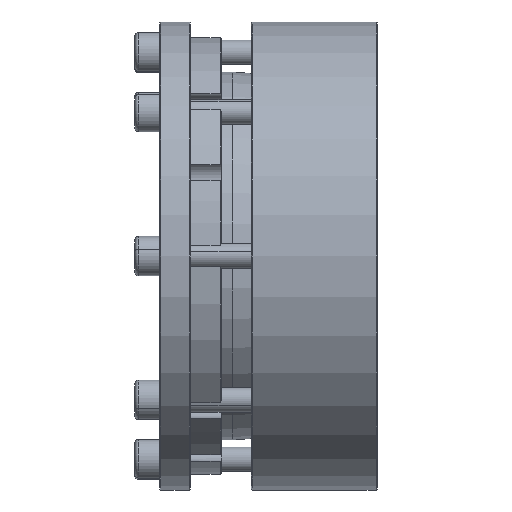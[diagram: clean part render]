
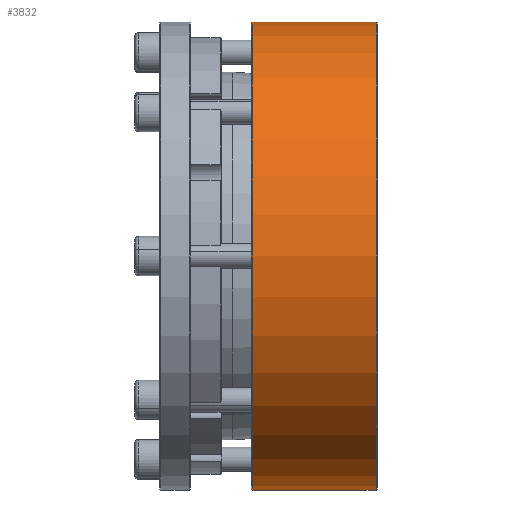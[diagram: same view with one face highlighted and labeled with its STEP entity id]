
A CAD part, front view. The second image highlights one B-rep face of the part: STEP entity #3832.
In plain terms, the highlighted cylindrical face has radius 94.91 mm (diameter 189.82 mm), a partial arc.
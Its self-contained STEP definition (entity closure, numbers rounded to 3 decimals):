
#24 = CARTESIAN_POINT ( 'NONE',  ( -68.181, 26.04, 94.91 ) ) ;
#140 = AXIS2_PLACEMENT_3D ( 'NONE', #1711, #7635, #3915 ) ;
#164 = CARTESIAN_POINT ( 'NONE',  ( -17.981, 26.04, -94.91 ) ) ;
#169 = EDGE_CURVE ( 'NONE', #2679, #8465, #5921, .T. ) ;
#216 = CYLINDRICAL_SURFACE ( 'NONE', #8225, 94.91 ) ;
#326 = VERTEX_POINT ( 'NONE', #164 ) ;
#1711 = CARTESIAN_POINT ( 'NONE',  ( -17.981, 26.04, 0. ) ) ;
#1787 = DIRECTION ( 'NONE',  ( -1., 0., 0. ) ) ;
#2069 = DIRECTION ( 'NONE',  ( -1., 0., 0. ) ) ;
#2420 = FACE_OUTER_BOUND ( 'NONE', #5132, .T. ) ;
#2483 = CARTESIAN_POINT ( 'NONE',  ( -68.581, 26.04, 0. ) ) ;
#2654 = EDGE_CURVE ( 'NONE', #8465, #2732, #6227, .T. ) ;
#2679 = VERTEX_POINT ( 'NONE', #7169 ) ;
#2732 = VERTEX_POINT ( 'NONE', #6105 ) ;
#2927 = ORIENTED_EDGE ( 'NONE', *, *, #6301, .F. ) ;
#2959 = CARTESIAN_POINT ( 'NONE',  ( -68.581, 26.04, 94.91 ) ) ;
#3191 = ORIENTED_EDGE ( 'NONE', *, *, #169, .T. ) ;
#3511 = DIRECTION ( 'NONE',  ( -1., 0., 0. ) ) ;
#3832 = ADVANCED_FACE ( 'NONE', ( #2420 ), #216, .T. ) ;
#3915 = DIRECTION ( 'NONE',  ( 0., 0., 1. ) ) ;
#4244 = CARTESIAN_POINT ( 'NONE',  ( -68.581, 26.04, -94.91 ) ) ;
#4433 = VECTOR ( 'NONE', #3511, 1000. ) ;
#4792 = CARTESIAN_POINT ( 'NONE',  ( -68.181, 26.04, 0. ) ) ;
#5132 = EDGE_LOOP ( 'NONE', ( #2927, #6084, #3191, #6747 ) ) ;
#5212 = DIRECTION ( 'NONE',  ( 0., 0., 1. ) ) ;
#5646 = EDGE_CURVE ( 'NONE', #326, #2679, #5736, .T. ) ;
#5683 = LINE ( 'NONE', #4244, #4433 ) ;
#5734 = AXIS2_PLACEMENT_3D ( 'NONE', #4792, #6232, #6803 ) ;
#5736 = CIRCLE ( 'NONE', #140, 94.91 ) ;
#5921 = LINE ( 'NONE', #2959, #9662 ) ;
#6084 = ORIENTED_EDGE ( 'NONE', *, *, #5646, .T. ) ;
#6105 = CARTESIAN_POINT ( 'NONE',  ( -68.181, 26.04, -94.91 ) ) ;
#6227 = CIRCLE ( 'NONE', #5734, 94.91 ) ;
#6232 = DIRECTION ( 'NONE',  ( 1., 0., 0. ) ) ;
#6301 = EDGE_CURVE ( 'NONE', #326, #2732, #5683, .T. ) ;
#6747 = ORIENTED_EDGE ( 'NONE', *, *, #2654, .T. ) ;
#6803 = DIRECTION ( 'NONE',  ( 0., 0., -1. ) ) ;
#7169 = CARTESIAN_POINT ( 'NONE',  ( -17.981, 26.04, 94.91 ) ) ;
#7635 = DIRECTION ( 'NONE',  ( -1., 0., 0. ) ) ;
#8225 = AXIS2_PLACEMENT_3D ( 'NONE', #2483, #1787, #5212 ) ;
#8465 = VERTEX_POINT ( 'NONE', #24 ) ;
#9662 = VECTOR ( 'NONE', #2069, 1000. ) ;
